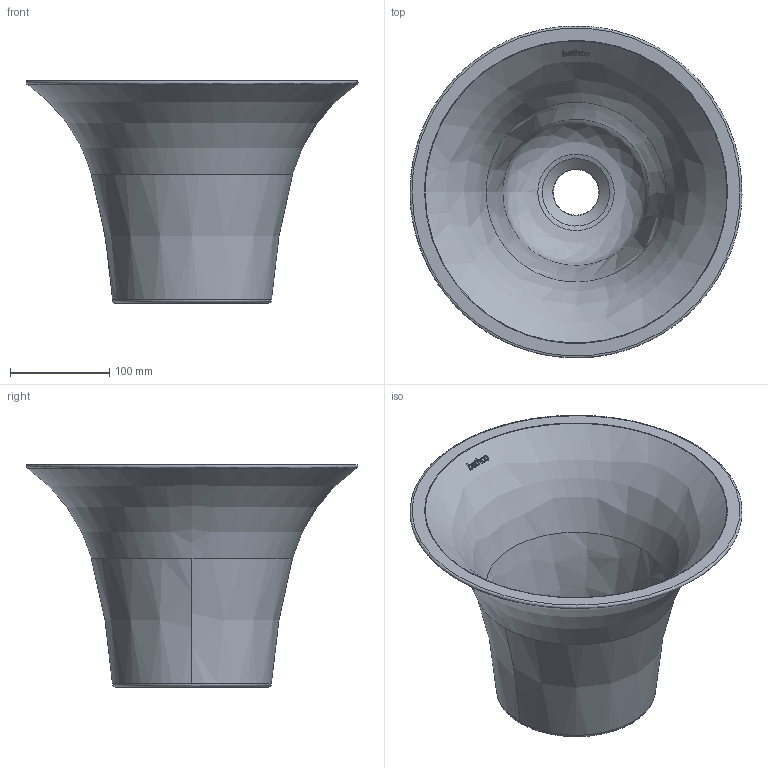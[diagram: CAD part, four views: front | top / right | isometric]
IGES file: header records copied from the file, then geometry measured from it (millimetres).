
Global section: file name: C:\Users\hp\Desktop\8332_Sotres.igs; native system: Rhinoceros ( Dec 10 2024 ); preprocessor: Trout Lake IGES 012 Dec 10 2024; date: 250122.112937; units: millimetre
Bounding box: 334.98 x 334.94 x 225 mm (x, y, z)
Surface area: 359630.4 mm2 (no closed solid volume)
Topology: 0 solids, 0 shells, 89 faces, 544 edges, 514 vertices
Faces by surface type: bspline 89
